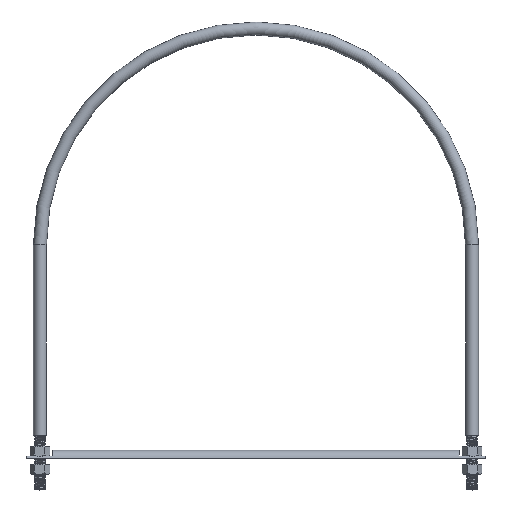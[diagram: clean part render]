
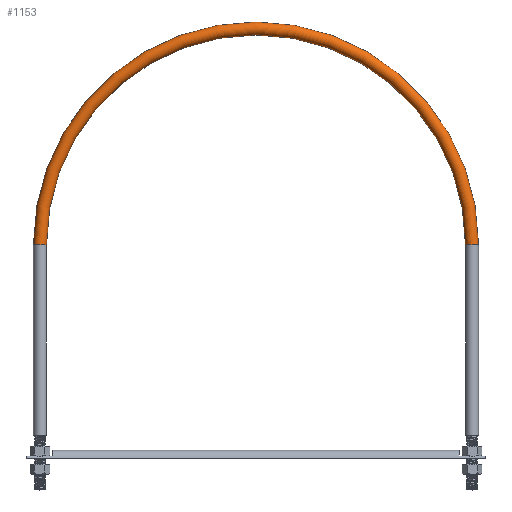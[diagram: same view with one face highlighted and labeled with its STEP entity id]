
A CAD part, top view. The second image highlights one B-rep face of the part: STEP entity #1153.
In plain terms, the highlighted toroidal (fillet/blend) face has major radius 477.837 mm and minor radius 14.383 mm.
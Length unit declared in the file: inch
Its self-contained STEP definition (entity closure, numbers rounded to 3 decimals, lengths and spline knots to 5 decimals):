
#1153 = ADVANCED_FACE ( 'Face1', ( #1216 ), #4699, .T. ) ;
#1216 = FACE_OUTER_BOUND ( 'NONE', #4144, .T. ) ;
#1960 = DIRECTION ( 'NONE',  ( 0., 0., 1. ) ) ;
#2322 = CARTESIAN_POINT ( 'NONE',  ( 0., 21.375, 0. ) ) ;
#2672 = EDGE_CURVE ( 'NONE', #10862, #4232, #3114, .T. ) ;
#3114 = CIRCLE ( 'NONE', #16291, 19.37875 ) ;
#4144 = EDGE_LOOP ( 'NONE', ( #13023, #9428, #5221, #9788 ) ) ;
#4232 = VERTEX_POINT ( 'NONE', #5565 ) ;
#4247 = CARTESIAN_POINT ( 'NONE',  ( 18.24625, 21.375, 0. ) ) ;
#4699 = TOROIDAL_SURFACE ( 'NONE', #13396, 18.8125, 0.56625 ) ;
#5221 = ORIENTED_EDGE ( 'NONE', *, *, #9789, .F. ) ;
#5565 = CARTESIAN_POINT ( 'NONE',  ( -19.37875, 21.375, 0. ) ) ;
#5747 = EDGE_CURVE ( 'NONE', #18759, #10862, #17963, .T. ) ;
#6558 = CARTESIAN_POINT ( 'NONE',  ( -18.24625, 21.375, 0. ) ) ;
#6894 = CARTESIAN_POINT ( 'NONE',  ( -18.8125, 21.375, 0. ) ) ;
#7453 = DIRECTION ( 'NONE',  ( 1., 0., 0. ) ) ;
#7537 = DIRECTION ( 'NONE',  ( 0., 0., 1. ) ) ;
#7648 = EDGE_CURVE ( 'NONE', #18759, #11020, #11850, .T. ) ;
#8446 = DIRECTION ( 'NONE',  ( 1., 0., 0. ) ) ;
#8539 = DIRECTION ( 'NONE',  ( 0., 0., 1. ) ) ;
#9428 = ORIENTED_EDGE ( 'NONE', *, *, #2672, .T. ) ;
#9788 = ORIENTED_EDGE ( 'NONE', *, *, #7648, .F. ) ;
#9789 = EDGE_CURVE ( 'Edge1', #11020, #4232, #19290, .T. ) ;
#10668 = CARTESIAN_POINT ( 'NONE',  ( 0., 21.375, 0. ) ) ;
#10683 = CARTESIAN_POINT ( 'NONE',  ( 0., 21.375, 0. ) ) ;
#10862 = VERTEX_POINT ( 'NONE', #13986 ) ;
#11020 = VERTEX_POINT ( 'NONE', #6558 ) ;
#11222 = DIRECTION ( 'NONE',  ( 0., 0., 1. ) ) ;
#11518 = AXIS2_PLACEMENT_3D ( 'NONE', #14125, #18893, #1960 ) ;
#11850 = CIRCLE ( 'NONE', #19904, 18.24625 ) ;
#12846 = AXIS2_PLACEMENT_3D ( 'NONE', #6894, #17583, #11222 ) ;
#13023 = ORIENTED_EDGE ( 'NONE', *, *, #5747, .T. ) ;
#13396 = AXIS2_PLACEMENT_3D ( 'NONE', #10683, #15400, #7453 ) ;
#13986 = CARTESIAN_POINT ( 'NONE',  ( 19.37875, 21.375, 0. ) ) ;
#14125 = CARTESIAN_POINT ( 'NONE',  ( 18.8125, 21.375, 0. ) ) ;
#15400 = DIRECTION ( 'NONE',  ( 0., 0., 1. ) ) ;
#16291 = AXIS2_PLACEMENT_3D ( 'NONE', #10668, #7537, #16715 ) ;
#16715 = DIRECTION ( 'NONE',  ( 1., 0., 0. ) ) ;
#17583 = DIRECTION ( 'NONE',  ( 0., -1., 0. ) ) ;
#17963 = CIRCLE ( 'NONE', #11518, 0.56625 ) ;
#18759 = VERTEX_POINT ( 'NONE', #4247 ) ;
#18893 = DIRECTION ( 'NONE',  ( 0., 1., 0. ) ) ;
#19290 = CIRCLE ( 'NONE', #12846, 0.56625 ) ;
#19904 = AXIS2_PLACEMENT_3D ( 'NONE', #2322, #8539, #8446 ) ;
